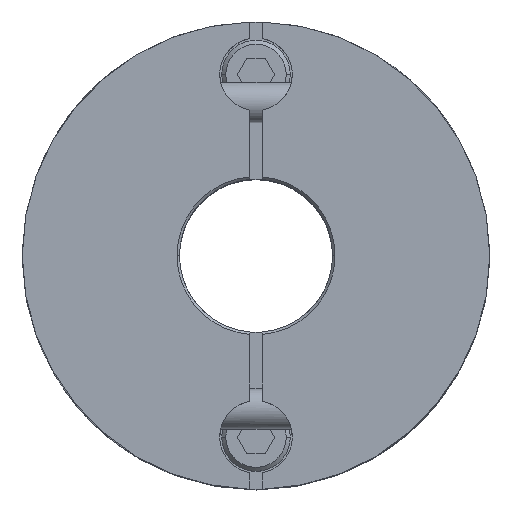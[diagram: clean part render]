
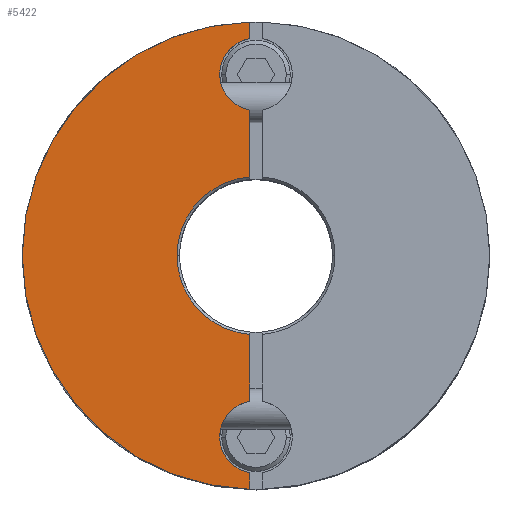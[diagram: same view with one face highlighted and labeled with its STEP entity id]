
A CAD part, top view. The second image highlights one B-rep face of the part: STEP entity #5422.
In plain terms, the highlighted planar face has unit normal (0, 0, 1).
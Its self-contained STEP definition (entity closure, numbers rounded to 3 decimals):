
#2070=CARTESIAN_POINT('',(-29.0,0.,22.4));
#2071=VERTEX_POINT('',#2070);
#2155=CARTESIAN_POINT('',(-0.75,-28.99,22.4));
#2156=VERTEX_POINT('',#2155);
#2163=CARTESIAN_POINT('',(0.0,0.,22.4));
#2164=DIRECTION('',(0.0,0.0,-1.0));
#2165=DIRECTION('',(-1.0,0.0,0.0));
#2166=AXIS2_PLACEMENT_3D('',#2163,#2164,#2165);
#2167=CIRCLE('',#2166,29.0);
#2168=EDGE_CURVE('',#2156,#2071,#2167,.T.);
#2482=CARTESIAN_POINT('',(-9.8,0.,22.4));
#2483=VERTEX_POINT('',#2482);
#2490=CARTESIAN_POINT('',(-0.75,-9.771,22.4));
#2491=VERTEX_POINT('',#2490);
#2492=CARTESIAN_POINT('',(0.0,0.,22.4));
#2493=DIRECTION('',(0.0,0.0,1.0));
#2494=DIRECTION('',(1.0,0.0,0.0));
#2495=AXIS2_PLACEMENT_3D('',#2492,#2493,#2494);
#2496=CIRCLE('',#2495,9.8);
#2497=EDGE_CURVE('',#2483,#2491,#2496,.T.);
#2828=CARTESIAN_POINT('',(-4.5,-22.5,22.4));
#2829=VERTEX_POINT('',#2828);
#2838=CARTESIAN_POINT('',(-0.75,-26.937,22.4));
#2839=VERTEX_POINT('',#2838);
#2840=CARTESIAN_POINT('',(0.,-22.5,22.4));
#2841=DIRECTION('',(0.0,0.0,-1.0));
#2842=DIRECTION('',(-1.0,0.0,0.0));
#2843=AXIS2_PLACEMENT_3D('',#2840,#2841,#2842);
#2844=CIRCLE('',#2843,4.5);
#2845=EDGE_CURVE('',#2839,#2829,#2844,.T.);
#3131=CARTESIAN_POINT('',(-4.5,22.5,22.4));
#3132=VERTEX_POINT('',#3131);
#3141=CARTESIAN_POINT('',(-0.75,18.063,22.4));
#3142=VERTEX_POINT('',#3141);
#3143=CARTESIAN_POINT('',(0.,22.5,22.4));
#3144=DIRECTION('',(0.0,0.0,-1.0));
#3145=DIRECTION('',(-1.0,0.0,0.0));
#3146=AXIS2_PLACEMENT_3D('',#3143,#3144,#3145);
#3147=CIRCLE('',#3146,4.5);
#3148=EDGE_CURVE('',#3142,#3132,#3147,.T.);
#4221=CARTESIAN_POINT('',(-0.75,26.937,22.4));
#4222=VERTEX_POINT('',#4221);
#4229=CARTESIAN_POINT('',(0.,22.5,22.4));
#4230=DIRECTION('',(0.0,0.0,-1.0));
#4231=DIRECTION('',(-1.0,0.0,0.0));
#4232=AXIS2_PLACEMENT_3D('',#4229,#4230,#4231);
#4233=CIRCLE('',#4232,4.5);
#4234=EDGE_CURVE('',#3132,#4222,#4233,.T.);
#4566=CARTESIAN_POINT('',(-0.75,-18.063,22.4));
#4567=VERTEX_POINT('',#4566);
#4574=CARTESIAN_POINT('',(0.,-22.5,22.4));
#4575=DIRECTION('',(0.0,0.0,-1.0));
#4576=DIRECTION('',(-1.0,0.0,0.0));
#4577=AXIS2_PLACEMENT_3D('',#4574,#4575,#4576);
#4578=CIRCLE('',#4577,4.5);
#4579=EDGE_CURVE('',#2829,#4567,#4578,.T.);
#4763=CARTESIAN_POINT('',(-0.75,-18.063,22.4));
#4764=DIRECTION('',(0.0,1.0,0.0));
#4765=VECTOR('',#4764,8.292);
#4766=LINE('',#4763,#4765);
#4767=EDGE_CURVE('',#4567,#2491,#4766,.T.);
#4830=CARTESIAN_POINT('',(-0.75,9.771,22.4));
#4831=VERTEX_POINT('',#4830);
#4832=CARTESIAN_POINT('',(-0.75,9.771,22.4));
#4833=DIRECTION('',(0.0,1.0,0.0));
#4834=VECTOR('',#4833,8.292);
#4835=LINE('',#4832,#4834);
#4836=EDGE_CURVE('',#4831,#3142,#4835,.T.);
#5301=CARTESIAN_POINT('',(-0.75,28.99,22.4));
#5302=VERTEX_POINT('',#5301);
#5309=CARTESIAN_POINT('',(-0.75,26.937,22.4));
#5310=DIRECTION('',(0.0,1.0,0.0));
#5311=VECTOR('',#5310,2.053);
#5312=LINE('',#5309,#5311);
#5313=EDGE_CURVE('',#4222,#5302,#5312,.T.);
#5386=CARTESIAN_POINT('',(-2.636,0.,22.4));
#5387=DIRECTION('',(0.0,0.0,1.0));
#5388=DIRECTION('',(-1.0,0.0,0.0));
#5389=AXIS2_PLACEMENT_3D('',#5386,#5387,#5388);
#5390=PLANE('',#5389);
#5391=ORIENTED_EDGE('',*,*,#3148,.T.);
#5392=ORIENTED_EDGE('',*,*,#4234,.T.);
#5393=ORIENTED_EDGE('',*,*,#5313,.T.);
#5394=CARTESIAN_POINT('',(0.0,0.,22.4));
#5395=DIRECTION('',(0.0,0.0,-1.0));
#5396=DIRECTION('',(-1.0,0.0,0.0));
#5397=AXIS2_PLACEMENT_3D('',#5394,#5395,#5396);
#5398=CIRCLE('',#5397,29.0);
#5399=EDGE_CURVE('',#2071,#5302,#5398,.T.);
#5400=ORIENTED_EDGE('',*,*,#5399,.F.);
#5401=ORIENTED_EDGE('',*,*,#2168,.F.);
#5402=CARTESIAN_POINT('',(-0.75,-28.99,22.4));
#5403=DIRECTION('',(0.0,1.0,0.0));
#5404=VECTOR('',#5403,2.053);
#5405=LINE('',#5402,#5404);
#5406=EDGE_CURVE('',#2156,#2839,#5405,.T.);
#5407=ORIENTED_EDGE('',*,*,#5406,.T.);
#5408=ORIENTED_EDGE('',*,*,#2845,.T.);
#5409=ORIENTED_EDGE('',*,*,#4579,.T.);
#5410=ORIENTED_EDGE('',*,*,#4767,.T.);
#5411=ORIENTED_EDGE('',*,*,#2497,.F.);
#5412=CARTESIAN_POINT('',(0.0,0.,22.4));
#5413=DIRECTION('',(0.0,0.0,1.0));
#5414=DIRECTION('',(1.0,0.0,0.0));
#5415=AXIS2_PLACEMENT_3D('',#5412,#5413,#5414);
#5416=CIRCLE('',#5415,9.8);
#5417=EDGE_CURVE('',#4831,#2483,#5416,.T.);
#5418=ORIENTED_EDGE('',*,*,#5417,.F.);
#5419=ORIENTED_EDGE('',*,*,#4836,.T.);
#5420=EDGE_LOOP('',(#5391,#5392,#5393,#5400,#5401,#5407,#5408,#5409,#5410,#5411,#5418,#5419));
#5421=FACE_OUTER_BOUND('',#5420,.T.);
#5422=ADVANCED_FACE('',(#5421),#5390,.T.);
